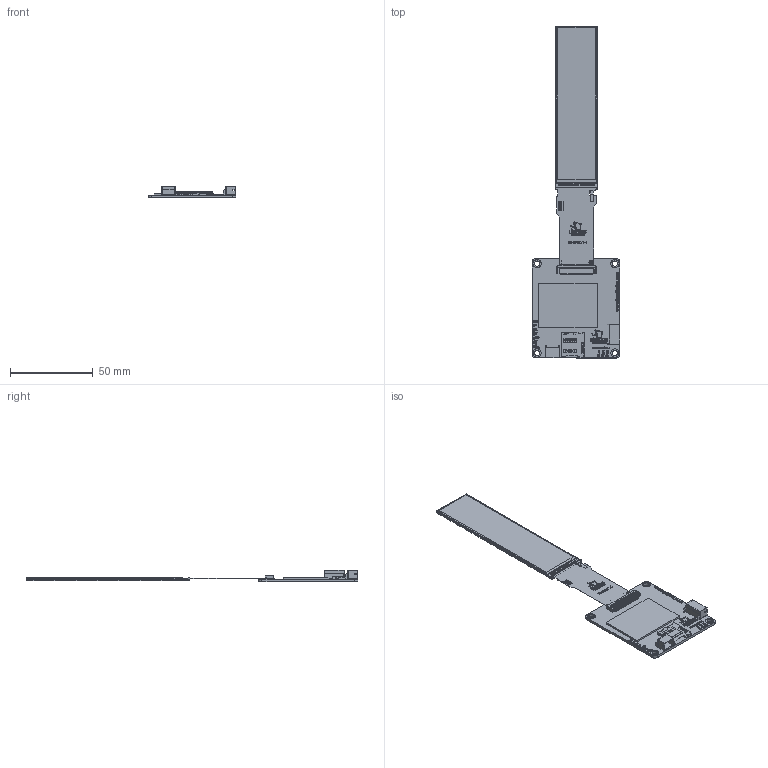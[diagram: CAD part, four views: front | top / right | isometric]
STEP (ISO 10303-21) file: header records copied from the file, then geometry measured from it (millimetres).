
FILE_DESCRIPTION (( 'STEP AP214' ), '1' );
FILE_NAME ('ER-TFT3.71-1-5982.STEP', '2024-07-18T06:18:48', ( '微软用户' ), ( '微软中国' ), 'SwSTEP 2.0', 'SolidWorks 2023', '' );
FILE_SCHEMA (( 'AUTOMOTIVE_DESIGN' ));
Length unit declared in the file: millimetre
Products named in the file (3): ER-TFT3.71-1; ER-PCBA5982-1; ER-TFT3.71-1-5982
Assembly tree (2 placements, depth 2):
  ER-TFT3.71-1-5982
    ER-PCBA5982-1
    ER-TFT3.71-1
Bounding box: 53 x 200.51 x 7.2 mm (x, y, z)
Volume: 10744.1 mm3; surface area: 18348 mm2
Topology: 161 solids, 161 shells, 5647 faces, 16174 edges, 10453 vertices
Faces by surface type: plane 3651, bspline 1206, cylinder 790
Entity records: 260415 total; most frequent: CARTESIAN_POINT 82424, ORIENTED_EDGE 32348, DIRECTION 23560, EDGE_CURVE 16174, VECTOR 12092, LINE 12092, VERTEX_POINT 10453, EDGE_LOOP 5951
